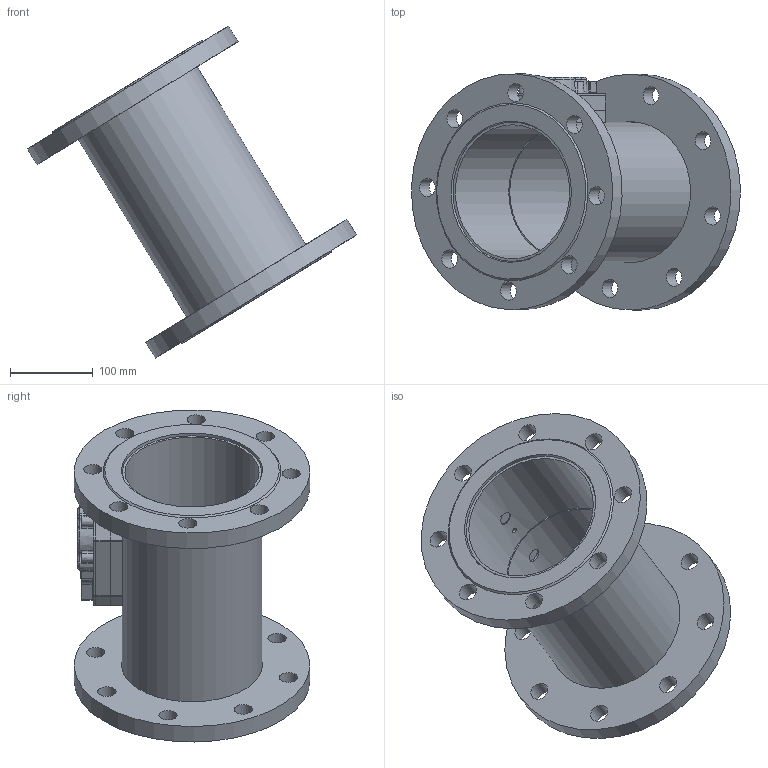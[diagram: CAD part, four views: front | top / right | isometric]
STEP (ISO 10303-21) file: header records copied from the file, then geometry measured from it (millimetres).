
FILE_DESCRIPTION( ( 'Unknown' ), '1' );
FILE_NAME( 'H:/440 pour vente_mai_2013/step_2/DN150_PN16_inox_300mm_rempli.stp', 'Unknown', ( 'Unknown' ), ( 'Unknown' ), 'PSStep 15.0.49', 'Unknown', ' ' );
FILE_SCHEMA( ( 'AUTOMOTIVE_DESIGN { 1 0 10303 214 1 1 1 1 }' ) );
Length unit declared in the file: millimetre
Products named in the file (9): 440_tête_rempli; 0440P011_rempli; 0440P012_rempli; 0440P060_rempli; Assem1; 0440P202_rempli; 0440P225_rempli; 0440P235_rempli; 0440P238_rempli
Assembly tree (10 placements, depth 3):
  Assem1
    0440P202_rempli
    0440P225_rempli  x2
    0440P235_rempli
    0440P238_rempli  x2
    440_tête_rempli
      0440P011_rempli
      0440P012_rempli
      0440P060_rempli
Bounding box: 397.45 x 284.95 x 401.15 mm (x, y, z)
Volume: 2736161 mm3; surface area: 640244.4 mm2
Topology: 9 solids, 14 shells, 276 faces, 701 edges, 440 vertices
Faces by surface type: cylinder 96, plane 79, cone 57, torus 29, bspline 15
Full cylindrical faces by diameter (mm): 2.2 x1, 2.459 x2, 2.5 x1, 3 x2, 3.242 x4, 4.1 x1, 5.03 x1, 6 x1, 6.2 x6, 6.917 x2, 10.2 x2, 16 x2, 20 x4, 22 x16, 162 x1, 168.3 x1, 170.5 x2, 285 x2
Entity records: 13572 total; most frequent: CARTESIAN_POINT 5526, DIRECTION 1281, ORIENTED_EDGE 1090, EDGE_CURVE 545, AXIS2_PLACEMENT_3D 538, VERTEX_POINT 377, EDGE_LOOP 362, FACE_OUTER_BOUND 297
